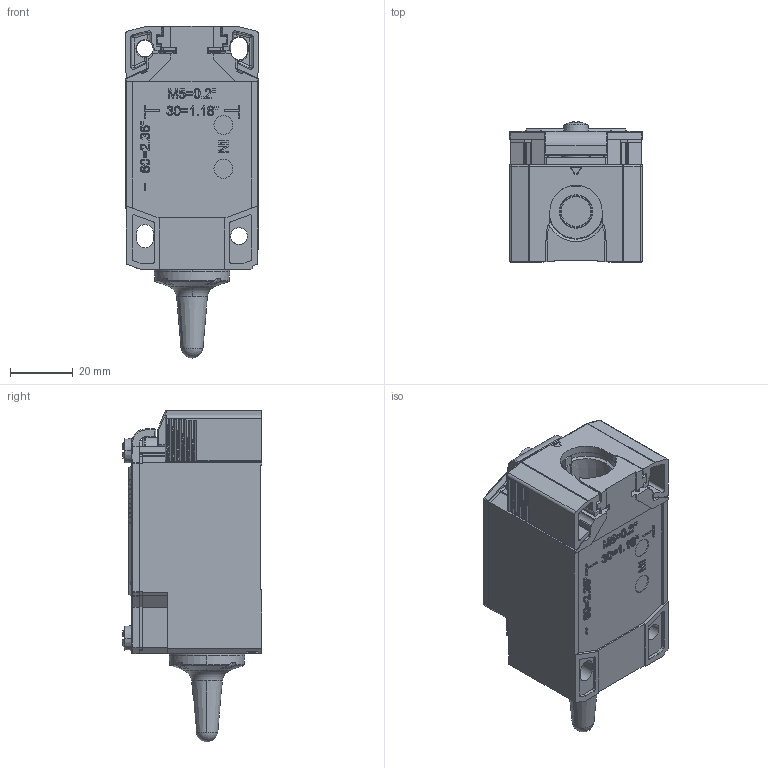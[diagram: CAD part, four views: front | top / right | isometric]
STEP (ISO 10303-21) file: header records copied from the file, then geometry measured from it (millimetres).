
FILE_DESCRIPTION((''),'2;1');
FILE_NAME('0610000108_SW0002','2025-11-27T13:57:05',('Hartwig.Bicknese'),(''),'CREO PARAMETRIC BY PTC INC, 2022124','CREO PARAMETRIC BY PTC INC, 2022124','');
FILE_SCHEMA(('AUTOMOTIVE_DESIGN { 1 0 10303 214 1 1 1 1 }'));
Products named in the file (1): 0610000108_SW0002
Bounding box: 42.48 x 44.53 x 105.78 mm (x, y, z)
Volume: 116700 mm3; surface area: 25707.7 mm2
Topology: 1 solids, 3 shells, 2035 faces, 5227 edges, 3251 vertices
Faces by surface type: plane 851, cylinder 517, extrusion 263, bspline 225, torus 73, sphere 67, cone 39
Entity records: 106130 total; most frequent: CARTESIAN_POINT 31272, ORIENTED_EDGE 10438, DIRECTION 8384, PRESENTATION_STYLE_ASSIGNMENT 7031, STYLED_ITEM 5482, CURVE_STYLE 5481, EDGE_CURVE 5219, VERTEX_POINT 3251
